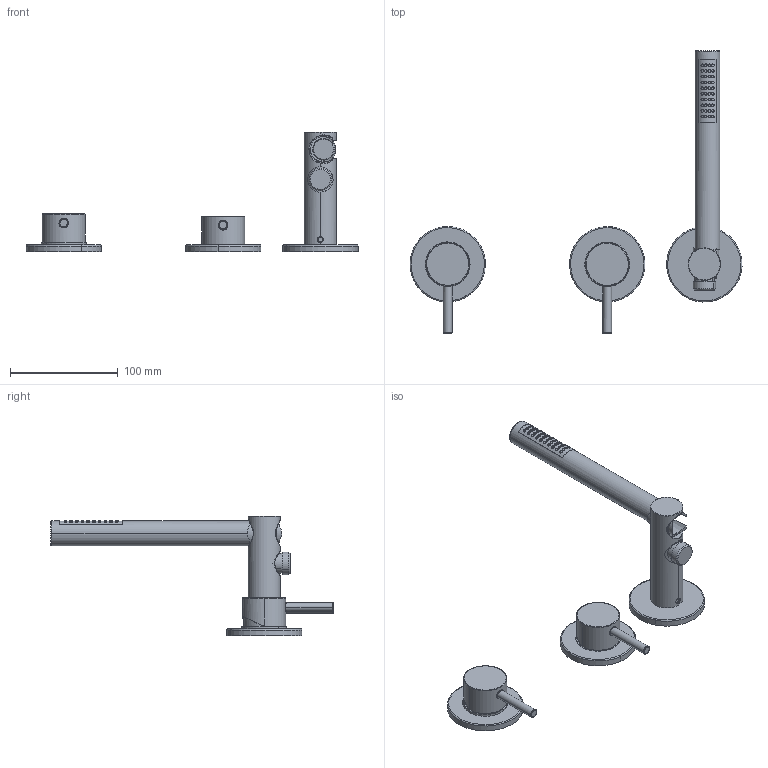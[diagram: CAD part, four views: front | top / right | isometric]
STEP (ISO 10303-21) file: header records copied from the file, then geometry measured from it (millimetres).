
FILE_DESCRIPTION (( 'STEP AP214' ), '1' );
FILE_NAME ('02230810 x architetti.STEP', '2024-09-13T12:07:52', ( '' ), ( '' ), 'SwSTEP 2.0', 'SolidWorks 2020', '' );
FILE_SCHEMA (( 'AUTOMOTIVE_DESIGN' ));
Length unit declared in the file: millimetre
Products named in the file (1): 02230810 x architetti
Bounding box: 308 x 262 x 111.2 mm (x, y, z)
Volume: 294095.4 mm3; surface area: 66316.3 mm2
Topology: 5 solids, 6 shells, 266 faces, 587 edges, 382 vertices
Faces by surface type: cylinder 181, plane 39, bspline 20, cone 14, torus 12
Entity records: 17016 total; most frequent: CARTESIAN_POINT 8713, ORIENTED_EDGE 1174, DIRECTION 963, EDGE_CURVE 587, AXIS2_PLACEMENT_3D 391, VERTEX_POINT 382, EDGE_LOOP 319, FACE_OUTER_BOUND 266
